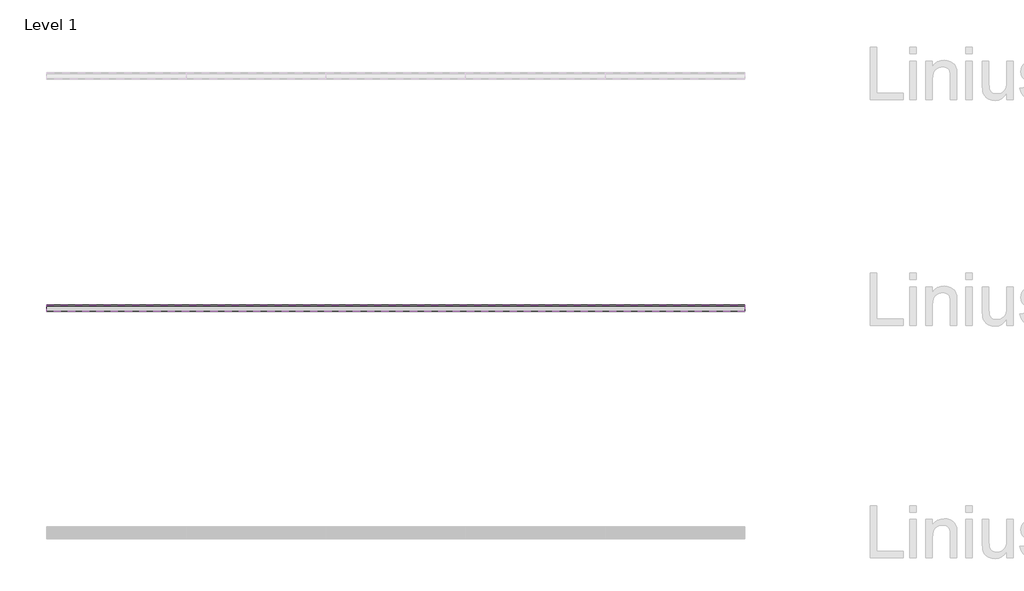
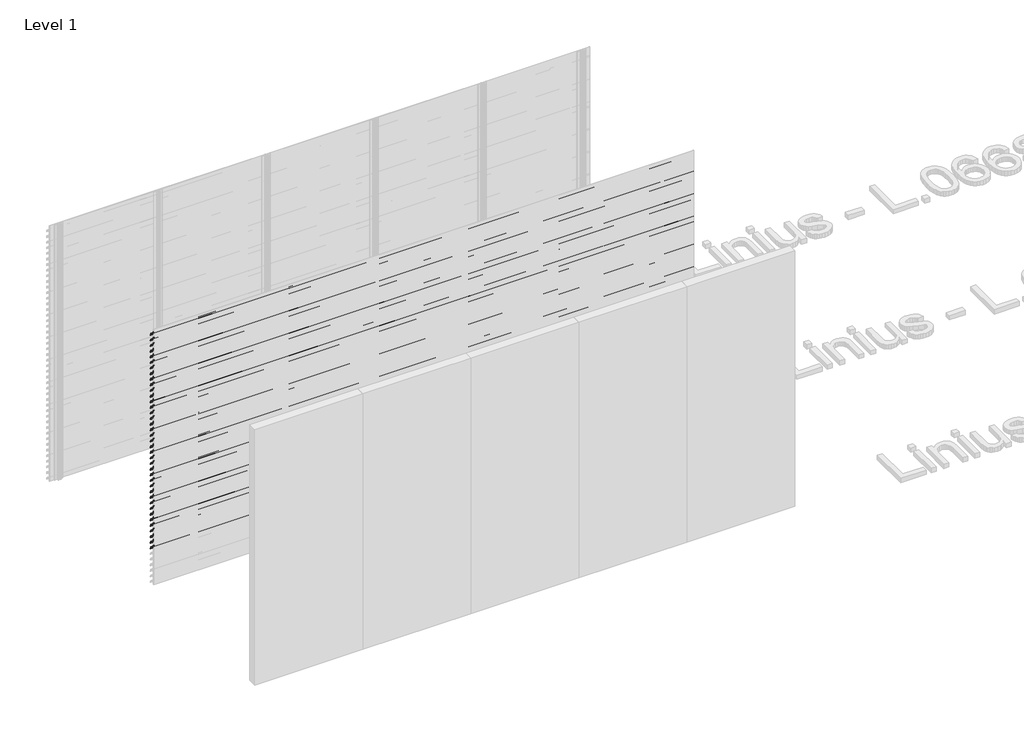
# One storey, part 120 of 540: 43 proxies.
"""IFC4 building model written with IfcOpenShell, lengths in millimetres."""

from ifc_helpers import new_model, si_unit, point, frame, frame_2d, origin, place, context, project, spatial, polyline, circle_curve, trimmed, segment, composite_curve, outline, extrude, element, save

model = new_model("IFC4")

# Units and contexts
model_context = context("Model", 3, world=origin())
ifc_project = project(units=[si_unit("LENGTHUNIT", "METRE", prefix="MILLI")], contexts=[model_context])

# Site, building, storey
site = spatial("IfcSite", under=ifc_project)
building = spatial("IfcBuilding", under=site)
storey = spatial("IfcBuildingStorey", under=building, Name="Level 1", Elevation=0.0)

# Proxies
placement = place(None, origin())
element("IfcBuildingElementProxy", 1, Name="Wall Sweeps", at=placement, inside=storey, context=model_context, shape_type="SweptSolid", body=[
    extrude(outline(composite_curve([segment(trimmed(circle_curve(frame_2d((7017.5825412, 193.7676769)), 26.4944656), [point((7034.5447587, 214.1205608))], [point((7044.0270068, 195.3946208))], False, "CARTESIAN"), True, "CONTINUOUS"), segment(polyline([(7044.0270068, 195.3946208), (7044.0270068, 187.5), (7042.7770068, 188.2216933), (7042.7770068, 193.7676769)]), True, "CONTINUOUS"), segment(trimmed(circle_curve(frame_2d((7017.5825412, 193.7676769)), 25.1944656), [point((7042.7770068, 193.7676769))], [point((7033.7545017, 213.086807))], True, "CARTESIAN"), True, "CONTINUOUS"), segment(polyline([(7033.7545017, 213.086807), (6989.0270068, 244.3158044), (6989.0270068, 264.0), (6990.2770068, 264.0), (6990.2770068, 245.0285629), (7034.5447587, 214.1205608)]), True, "CONTINUOUS")], self_intersect=False)), frame((90666.6208099, 0.0, 0.0), z_axis=(1.0, 0.0, 0.0), x_axis=(0.0, 1.0, 0.0)), (0.0, 0.0, 1.0), 1199.9999999),
])
element("IfcBuildingElementProxy", 2, Name="Wall Sweeps", at=placement, inside=storey, context=model_context, shape_type="SweptSolid", body=[
    extrude(outline(composite_curve([segment(trimmed(circle_curve(frame_2d((7017.5825412, 127.7676769)), 26.4944656), [point((7034.5447587, 148.1205608))], [point((7044.0270068, 129.3946208))], False, "CARTESIAN"), True, "CONTINUOUS"), segment(polyline([(7044.0270068, 129.3946208), (7044.0270068, 121.5), (7042.7770068, 122.2216933), (7042.7770068, 127.7676769)]), True, "CONTINUOUS"), segment(trimmed(circle_curve(frame_2d((7017.5825412, 127.7676769)), 25.1944656), [point((7042.7770068, 127.7676769))], [point((7033.7545017, 147.086807))], True, "CARTESIAN"), True, "CONTINUOUS"), segment(polyline([(7033.7545017, 147.086807), (6989.0270068, 178.3158044), (6989.0270068, 198.0), (6990.2770068, 198.0), (6990.2770068, 179.0285629), (7034.5447587, 148.1205608)]), True, "CONTINUOUS")], self_intersect=False)), frame((90666.6208099, 0.0, 0.0), z_axis=(1.0, 0.0, 0.0), x_axis=(0.0, 1.0, 0.0)), (0.0, 0.0, 1.0), 1199.9999999),
])
element("IfcBuildingElementProxy", 3, Name="Wall Sweeps", at=placement, inside=storey, context=model_context, shape_type="SweptSolid", body=[
    extrude(outline(composite_curve([segment(trimmed(circle_curve(frame_2d((7017.5825412, 61.7676769)), 26.4944656), [point((7034.5447587, 82.1205608))], [point((7044.0270068, 63.3946208))], False, "CARTESIAN"), True, "CONTINUOUS"), segment(polyline([(7044.0270068, 63.3946208), (7044.0270068, 55.5), (7042.7770068, 56.2216933), (7042.7770068, 61.7676769)]), True, "CONTINUOUS"), segment(trimmed(circle_curve(frame_2d((7017.5825412, 61.7676769)), 25.1944656), [point((7042.7770068, 61.7676769))], [point((7033.7545017, 81.086807))], True, "CARTESIAN"), True, "CONTINUOUS"), segment(polyline([(7033.7545017, 81.086807), (6989.0270068, 112.3158044), (6989.0270068, 132.0), (6990.2770068, 132.0), (6990.2770068, 113.0285629), (7034.5447587, 82.1205608)]), True, "CONTINUOUS")], self_intersect=False)), frame((90666.6208099, 0.0, 0.0), z_axis=(1.0, 0.0, 0.0), x_axis=(0.0, 1.0, 0.0)), (0.0, 0.0, 1.0), 1199.9999999),
])
element("IfcBuildingElementProxy", 4, Name="Wall Sweeps", at=placement, inside=storey, context=model_context, shape_type="SweptSolid", body=[
    extrude(outline(composite_curve([segment(trimmed(circle_curve(frame_2d((7017.5825412, -4.2323231)), 26.4944656), [point((7034.5447587, 16.1205608))], [point((7044.0270068, -2.6053792))], False, "CARTESIAN"), True, "CONTINUOUS"), segment(polyline([(7044.0270068, -2.6053792), (7044.0270068, -10.5), (7042.7770068, -9.7783067), (7042.7770068, -4.2323231)]), True, "CONTINUOUS"), segment(trimmed(circle_curve(frame_2d((7017.5825412, -4.2323231)), 25.1944656), [point((7042.7770068, -4.2323231))], [point((7033.7545017, 15.086807))], True, "CARTESIAN"), True, "CONTINUOUS"), segment(polyline([(7033.7545017, 15.086807), (6989.0270068, 46.3158044), (6989.0270068, 66.0), (6990.2770068, 66.0), (6990.2770068, 47.0285629), (7034.5447587, 16.1205608)]), True, "CONTINUOUS")], self_intersect=False)), frame((90666.6208099, 0.0, 0.0), z_axis=(1.0, 0.0, 0.0), x_axis=(0.0, 1.0, 0.0)), (0.0, 0.0, 1.0), 1199.9999999),
])
element("IfcBuildingElementProxy", 5, Name="Wall Sweeps", at=placement, inside=storey, context=model_context, shape_type="SweptSolid", body=[
    extrude(outline(composite_curve([segment(trimmed(circle_curve(frame_2d((5017.5825412, 2899.7676769)), 26.4944656), [point((5034.5447587, 2920.1205608))], [point((5044.0270068, 2901.3946208))], False, "CARTESIAN"), True, "CONTINUOUS"), segment(polyline([(5044.0270068, 2901.3946208), (5044.0270068, 2893.5), (5042.7770068, 2894.2216933), (5042.7770068, 2899.7676769)]), True, "CONTINUOUS"), segment(trimmed(circle_curve(frame_2d((5017.5825412, 2899.7676769)), 25.1944656), [point((5042.7770068, 2899.7676769))], [point((5033.7545017, 2919.086807))], True, "CARTESIAN"), True, "CONTINUOUS"), segment(polyline([(5033.7545017, 2919.086807), (4989.0270068, 2950.3158044), (4989.0270068, 2970.0), (4990.2770068, 2970.0), (4990.2770068, 2951.0285629), (5034.5447587, 2920.1205608)]), True, "CONTINUOUS")], self_intersect=False)), frame((89466.6208097, 0.0, 0.0), z_axis=(1.0, 0.0, 0.0), x_axis=(0.0, 1.0, 0.0)), (0.0, 0.0, 1.0), 6000.0),
])
element("IfcBuildingElementProxy", 6, Name="Wall Sweeps", at=placement, inside=storey, context=model_context, shape_type="SweptSolid", body=[
    extrude(outline(composite_curve([segment(trimmed(circle_curve(frame_2d((5017.5825412, 2833.7676769)), 26.4944656), [point((5034.5447587, 2854.1205608))], [point((5044.0270068, 2835.3946208))], False, "CARTESIAN"), True, "CONTINUOUS"), segment(polyline([(5044.0270068, 2835.3946208), (5044.0270068, 2827.5), (5042.7770068, 2828.2216933), (5042.7770068, 2833.7676769)]), True, "CONTINUOUS"), segment(trimmed(circle_curve(frame_2d((5017.5825412, 2833.7676769)), 25.1944656), [point((5042.7770068, 2833.7676769))], [point((5033.7545017, 2853.086807))], True, "CARTESIAN"), True, "CONTINUOUS"), segment(polyline([(5033.7545017, 2853.086807), (4989.0270068, 2884.3158044), (4989.0270068, 2904.0), (4990.2770068, 2904.0), (4990.2770068, 2885.0285629), (5034.5447587, 2854.1205608)]), True, "CONTINUOUS")], self_intersect=False)), frame((89466.6208097, 0.0, 0.0), z_axis=(1.0, 0.0, 0.0), x_axis=(0.0, 1.0, 0.0)), (0.0, 0.0, 1.0), 6000.0),
])
element("IfcBuildingElementProxy", 7, Name="Wall Sweeps", at=placement, inside=storey, context=model_context, shape_type="SweptSolid", body=[
    extrude(outline(composite_curve([segment(trimmed(circle_curve(frame_2d((5017.5825412, 2767.7676769)), 26.4944656), [point((5034.5447587, 2788.1205608))], [point((5044.0270068, 2769.3946208))], False, "CARTESIAN"), True, "CONTINUOUS"), segment(polyline([(5044.0270068, 2769.3946208), (5044.0270068, 2761.5), (5042.7770068, 2762.2216933), (5042.7770068, 2767.7676769)]), True, "CONTINUOUS"), segment(trimmed(circle_curve(frame_2d((5017.5825412, 2767.7676769)), 25.1944656), [point((5042.7770068, 2767.7676769))], [point((5033.7545017, 2787.086807))], True, "CARTESIAN"), True, "CONTINUOUS"), segment(polyline([(5033.7545017, 2787.086807), (4989.0270068, 2818.3158044), (4989.0270068, 2838.0), (4990.2770068, 2838.0), (4990.2770068, 2819.0285629), (5034.5447587, 2788.1205608)]), True, "CONTINUOUS")], self_intersect=False)), frame((89466.6208097, 0.0, 0.0), z_axis=(1.0, 0.0, 0.0), x_axis=(0.0, 1.0, 0.0)), (0.0, 0.0, 1.0), 6000.0),
])
element("IfcBuildingElementProxy", 8, Name="Wall Sweeps", at=placement, inside=storey, context=model_context, shape_type="SweptSolid", body=[
    extrude(outline(composite_curve([segment(trimmed(circle_curve(frame_2d((5017.5825412, 2701.7676769)), 26.4944656), [point((5034.5447587, 2722.1205608))], [point((5044.0270068, 2703.3946208))], False, "CARTESIAN"), True, "CONTINUOUS"), segment(polyline([(5044.0270068, 2703.3946208), (5044.0270068, 2695.5), (5042.7770068, 2696.2216933), (5042.7770068, 2701.7676769)]), True, "CONTINUOUS"), segment(trimmed(circle_curve(frame_2d((5017.5825412, 2701.7676769)), 25.1944656), [point((5042.7770068, 2701.7676769))], [point((5033.7545017, 2721.086807))], True, "CARTESIAN"), True, "CONTINUOUS"), segment(polyline([(5033.7545017, 2721.086807), (4989.0270068, 2752.3158044), (4989.0270068, 2772.0), (4990.2770068, 2772.0), (4990.2770068, 2753.0285629), (5034.5447587, 2722.1205608)]), True, "CONTINUOUS")], self_intersect=False)), frame((89466.6208097, 0.0, 0.0), z_axis=(1.0, 0.0, 0.0), x_axis=(0.0, 1.0, 0.0)), (0.0, 0.0, 1.0), 6000.0),
])
element("IfcBuildingElementProxy", 9, Name="Wall Sweeps", at=placement, inside=storey, context=model_context, shape_type="SweptSolid", body=[
    extrude(outline(composite_curve([segment(trimmed(circle_curve(frame_2d((5017.5825412, 2635.7676769)), 26.4944656), [point((5034.5447587, 2656.1205608))], [point((5044.0270068, 2637.3946208))], False, "CARTESIAN"), True, "CONTINUOUS"), segment(polyline([(5044.0270068, 2637.3946208), (5044.0270068, 2629.5), (5042.7770068, 2630.2216933), (5042.7770068, 2635.7676769)]), True, "CONTINUOUS"), segment(trimmed(circle_curve(frame_2d((5017.5825412, 2635.7676769)), 25.1944656), [point((5042.7770068, 2635.7676769))], [point((5033.7545017, 2655.086807))], True, "CARTESIAN"), True, "CONTINUOUS"), segment(polyline([(5033.7545017, 2655.086807), (4989.0270068, 2686.3158044), (4989.0270068, 2706.0), (4990.2770068, 2706.0), (4990.2770068, 2687.0285629), (5034.5447587, 2656.1205608)]), True, "CONTINUOUS")], self_intersect=False)), frame((89466.6208097, 0.0, 0.0), z_axis=(1.0, 0.0, 0.0), x_axis=(0.0, 1.0, 0.0)), (0.0, 0.0, 1.0), 6000.0),
])
element("IfcBuildingElementProxy", 10, Name="Wall Sweeps", at=placement, inside=storey, context=model_context, shape_type="SweptSolid", body=[
    extrude(outline(composite_curve([segment(trimmed(circle_curve(frame_2d((5017.5825412, 2569.7676769)), 26.4944656), [point((5034.5447587, 2590.1205608))], [point((5044.0270068, 2571.3946208))], False, "CARTESIAN"), True, "CONTINUOUS"), segment(polyline([(5044.0270068, 2571.3946208), (5044.0270068, 2563.5), (5042.7770068, 2564.2216933), (5042.7770068, 2569.7676769)]), True, "CONTINUOUS"), segment(trimmed(circle_curve(frame_2d((5017.5825412, 2569.7676769)), 25.1944656), [point((5042.7770068, 2569.7676769))], [point((5033.7545017, 2589.086807))], True, "CARTESIAN"), True, "CONTINUOUS"), segment(polyline([(5033.7545017, 2589.086807), (4989.0270068, 2620.3158044), (4989.0270068, 2640.0), (4990.2770068, 2640.0), (4990.2770068, 2621.0285629), (5034.5447587, 2590.1205608)]), True, "CONTINUOUS")], self_intersect=False)), frame((89466.6208097, 0.0, 0.0), z_axis=(1.0, 0.0, 0.0), x_axis=(0.0, 1.0, 0.0)), (0.0, 0.0, 1.0), 6000.0),
])
element("IfcBuildingElementProxy", 11, Name="Wall Sweeps", at=placement, inside=storey, context=model_context, shape_type="SweptSolid", body=[
    extrude(outline(composite_curve([segment(trimmed(circle_curve(frame_2d((5017.5825412, 2503.7676769)), 26.4944656), [point((5034.5447587, 2524.1205608))], [point((5044.0270068, 2505.3946208))], False, "CARTESIAN"), True, "CONTINUOUS"), segment(polyline([(5044.0270068, 2505.3946208), (5044.0270068, 2497.5), (5042.7770068, 2498.2216933), (5042.7770068, 2503.7676769)]), True, "CONTINUOUS"), segment(trimmed(circle_curve(frame_2d((5017.5825412, 2503.7676769)), 25.1944656), [point((5042.7770068, 2503.7676769))], [point((5033.7545017, 2523.086807))], True, "CARTESIAN"), True, "CONTINUOUS"), segment(polyline([(5033.7545017, 2523.086807), (4989.0270068, 2554.3158044), (4989.0270068, 2574.0), (4990.2770068, 2574.0), (4990.2770068, 2555.0285629), (5034.5447587, 2524.1205608)]), True, "CONTINUOUS")], self_intersect=False)), frame((89466.6208097, 0.0, 0.0), z_axis=(1.0, 0.0, 0.0), x_axis=(0.0, 1.0, 0.0)), (0.0, 0.0, 1.0), 6000.0),
])
element("IfcBuildingElementProxy", 12, Name="Wall Sweeps", at=placement, inside=storey, context=model_context, shape_type="SweptSolid", body=[
    extrude(outline(composite_curve([segment(trimmed(circle_curve(frame_2d((5017.5825412, 2437.7676769)), 26.4944656), [point((5034.5447587, 2458.1205608))], [point((5044.0270068, 2439.3946208))], False, "CARTESIAN"), True, "CONTINUOUS"), segment(polyline([(5044.0270068, 2439.3946208), (5044.0270068, 2431.5), (5042.7770068, 2432.2216933), (5042.7770068, 2437.7676769)]), True, "CONTINUOUS"), segment(trimmed(circle_curve(frame_2d((5017.5825412, 2437.7676769)), 25.1944656), [point((5042.7770068, 2437.7676769))], [point((5033.7545017, 2457.086807))], True, "CARTESIAN"), True, "CONTINUOUS"), segment(polyline([(5033.7545017, 2457.086807), (4989.0270068, 2488.3158044), (4989.0270068, 2508.0), (4990.2770068, 2508.0), (4990.2770068, 2489.0285629), (5034.5447587, 2458.1205608)]), True, "CONTINUOUS")], self_intersect=False)), frame((89466.6208097, 0.0, 0.0), z_axis=(1.0, 0.0, 0.0), x_axis=(0.0, 1.0, 0.0)), (0.0, 0.0, 1.0), 6000.0),
])
element("IfcBuildingElementProxy", 13, Name="Wall Sweeps", at=placement, inside=storey, context=model_context, shape_type="SweptSolid", body=[
    extrude(outline(composite_curve([segment(trimmed(circle_curve(frame_2d((5017.5825412, 2371.7676769)), 26.4944656), [point((5034.5447587, 2392.1205608))], [point((5044.0270068, 2373.3946208))], False, "CARTESIAN"), True, "CONTINUOUS"), segment(polyline([(5044.0270068, 2373.3946208), (5044.0270068, 2365.5), (5042.7770068, 2366.2216933), (5042.7770068, 2371.7676769)]), True, "CONTINUOUS"), segment(trimmed(circle_curve(frame_2d((5017.5825412, 2371.7676769)), 25.1944656), [point((5042.7770068, 2371.7676769))], [point((5033.7545017, 2391.086807))], True, "CARTESIAN"), True, "CONTINUOUS"), segment(polyline([(5033.7545017, 2391.086807), (4989.0270068, 2422.3158044), (4989.0270068, 2442.0), (4990.2770068, 2442.0), (4990.2770068, 2423.0285629), (5034.5447587, 2392.1205608)]), True, "CONTINUOUS")], self_intersect=False)), frame((89466.6208097, 0.0, 0.0), z_axis=(1.0, 0.0, 0.0), x_axis=(0.0, 1.0, 0.0)), (0.0, 0.0, 1.0), 6000.0),
])
element("IfcBuildingElementProxy", 14, Name="Wall Sweeps", at=placement, inside=storey, context=model_context, shape_type="SweptSolid", body=[
    extrude(outline(composite_curve([segment(trimmed(circle_curve(frame_2d((5017.5825412, 2305.7676769)), 26.4944656), [point((5034.5447587, 2326.1205608))], [point((5044.0270068, 2307.3946208))], False, "CARTESIAN"), True, "CONTINUOUS"), segment(polyline([(5044.0270068, 2307.3946208), (5044.0270068, 2299.5), (5042.7770068, 2300.2216933), (5042.7770068, 2305.7676769)]), True, "CONTINUOUS"), segment(trimmed(circle_curve(frame_2d((5017.5825412, 2305.7676769)), 25.1944656), [point((5042.7770068, 2305.7676769))], [point((5033.7545017, 2325.086807))], True, "CARTESIAN"), True, "CONTINUOUS"), segment(polyline([(5033.7545017, 2325.086807), (4989.0270068, 2356.3158044), (4989.0270068, 2376.0), (4990.2770068, 2376.0), (4990.2770068, 2357.0285629), (5034.5447587, 2326.1205608)]), True, "CONTINUOUS")], self_intersect=False)), frame((89466.6208097, 0.0, 0.0), z_axis=(1.0, 0.0, 0.0), x_axis=(0.0, 1.0, 0.0)), (0.0, 0.0, 1.0), 6000.0),
])
element("IfcBuildingElementProxy", 15, Name="Wall Sweeps", at=placement, inside=storey, context=model_context, shape_type="SweptSolid", body=[
    extrude(outline(composite_curve([segment(trimmed(circle_curve(frame_2d((5017.5825412, 2239.7676769)), 26.4944656), [point((5034.5447587, 2260.1205608))], [point((5044.0270068, 2241.3946208))], False, "CARTESIAN"), True, "CONTINUOUS"), segment(polyline([(5044.0270068, 2241.3946208), (5044.0270068, 2233.5), (5042.7770068, 2234.2216933), (5042.7770068, 2239.7676769)]), True, "CONTINUOUS"), segment(trimmed(circle_curve(frame_2d((5017.5825412, 2239.7676769)), 25.1944656), [point((5042.7770068, 2239.7676769))], [point((5033.7545017, 2259.086807))], True, "CARTESIAN"), True, "CONTINUOUS"), segment(polyline([(5033.7545017, 2259.086807), (4989.0270068, 2290.3158044), (4989.0270068, 2310.0), (4990.2770068, 2310.0), (4990.2770068, 2291.0285629), (5034.5447587, 2260.1205608)]), True, "CONTINUOUS")], self_intersect=False)), frame((89466.6208097, 0.0, 0.0), z_axis=(1.0, 0.0, 0.0), x_axis=(0.0, 1.0, 0.0)), (0.0, 0.0, 1.0), 6000.0),
])
element("IfcBuildingElementProxy", 16, Name="Wall Sweeps", at=placement, inside=storey, context=model_context, shape_type="SweptSolid", body=[
    extrude(outline(composite_curve([segment(trimmed(circle_curve(frame_2d((5017.5825412, 2173.7676769)), 26.4944656), [point((5034.5447587, 2194.1205608))], [point((5044.0270068, 2175.3946208))], False, "CARTESIAN"), True, "CONTINUOUS"), segment(polyline([(5044.0270068, 2175.3946208), (5044.0270068, 2167.5), (5042.7770068, 2168.2216933), (5042.7770068, 2173.7676769)]), True, "CONTINUOUS"), segment(trimmed(circle_curve(frame_2d((5017.5825412, 2173.7676769)), 25.1944656), [point((5042.7770068, 2173.7676769))], [point((5033.7545017, 2193.086807))], True, "CARTESIAN"), True, "CONTINUOUS"), segment(polyline([(5033.7545017, 2193.086807), (4989.0270068, 2224.3158044), (4989.0270068, 2244.0), (4990.2770068, 2244.0), (4990.2770068, 2225.0285629), (5034.5447587, 2194.1205608)]), True, "CONTINUOUS")], self_intersect=False)), frame((89466.6208097, 0.0, 0.0), z_axis=(1.0, 0.0, 0.0), x_axis=(0.0, 1.0, 0.0)), (0.0, 0.0, 1.0), 6000.0),
])
element("IfcBuildingElementProxy", 17, Name="Wall Sweeps", at=placement, inside=storey, context=model_context, shape_type="SweptSolid", body=[
    extrude(outline(composite_curve([segment(trimmed(circle_curve(frame_2d((5017.5825412, 2107.7676769)), 26.4944656), [point((5034.5447587, 2128.1205608))], [point((5044.0270068, 2109.3946208))], False, "CARTESIAN"), True, "CONTINUOUS"), segment(polyline([(5044.0270068, 2109.3946208), (5044.0270068, 2101.5), (5042.7770068, 2102.2216933), (5042.7770068, 2107.7676769)]), True, "CONTINUOUS"), segment(trimmed(circle_curve(frame_2d((5017.5825412, 2107.7676769)), 25.1944656), [point((5042.7770068, 2107.7676769))], [point((5033.7545017, 2127.086807))], True, "CARTESIAN"), True, "CONTINUOUS"), segment(polyline([(5033.7545017, 2127.086807), (4989.0270068, 2158.3158044), (4989.0270068, 2178.0), (4990.2770068, 2178.0), (4990.2770068, 2159.0285629), (5034.5447587, 2128.1205608)]), True, "CONTINUOUS")], self_intersect=False)), frame((89466.6208097, 0.0, 0.0), z_axis=(1.0, 0.0, 0.0), x_axis=(0.0, 1.0, 0.0)), (0.0, 0.0, 1.0), 6000.0),
])
element("IfcBuildingElementProxy", 18, Name="Wall Sweeps", at=placement, inside=storey, context=model_context, shape_type="SweptSolid", body=[
    extrude(outline(composite_curve([segment(trimmed(circle_curve(frame_2d((5017.5825412, 2041.7676769)), 26.4944656), [point((5034.5447587, 2062.1205608))], [point((5044.0270068, 2043.3946208))], False, "CARTESIAN"), True, "CONTINUOUS"), segment(polyline([(5044.0270068, 2043.3946208), (5044.0270068, 2035.5), (5042.7770068, 2036.2216933), (5042.7770068, 2041.7676769)]), True, "CONTINUOUS"), segment(trimmed(circle_curve(frame_2d((5017.5825412, 2041.7676769)), 25.1944656), [point((5042.7770068, 2041.7676769))], [point((5033.7545017, 2061.086807))], True, "CARTESIAN"), True, "CONTINUOUS"), segment(polyline([(5033.7545017, 2061.086807), (4989.0270068, 2092.3158044), (4989.0270068, 2112.0), (4990.2770068, 2112.0), (4990.2770068, 2093.0285629), (5034.5447587, 2062.1205608)]), True, "CONTINUOUS")], self_intersect=False)), frame((89466.6208097, 0.0, 0.0), z_axis=(1.0, 0.0, 0.0), x_axis=(0.0, 1.0, 0.0)), (0.0, 0.0, 1.0), 6000.0),
])
element("IfcBuildingElementProxy", 19, Name="Wall Sweeps", at=placement, inside=storey, context=model_context, shape_type="SweptSolid", body=[
    extrude(outline(composite_curve([segment(trimmed(circle_curve(frame_2d((5017.5825412, 1975.7676769)), 26.4944656), [point((5034.5447587, 1996.1205608))], [point((5044.0270068, 1977.3946208))], False, "CARTESIAN"), True, "CONTINUOUS"), segment(polyline([(5044.0270068, 1977.3946208), (5044.0270068, 1969.5), (5042.7770068, 1970.2216933), (5042.7770068, 1975.7676769)]), True, "CONTINUOUS"), segment(trimmed(circle_curve(frame_2d((5017.5825412, 1975.7676769)), 25.1944656), [point((5042.7770068, 1975.7676769))], [point((5033.7545017, 1995.086807))], True, "CARTESIAN"), True, "CONTINUOUS"), segment(polyline([(5033.7545017, 1995.086807), (4989.0270068, 2026.3158044), (4989.0270068, 2046.0), (4990.2770068, 2046.0), (4990.2770068, 2027.0285629), (5034.5447587, 1996.1205608)]), True, "CONTINUOUS")], self_intersect=False)), frame((89466.6208097, 0.0, 0.0), z_axis=(1.0, 0.0, 0.0), x_axis=(0.0, 1.0, 0.0)), (0.0, 0.0, 1.0), 6000.0),
])
element("IfcBuildingElementProxy", 20, Name="Wall Sweeps", at=placement, inside=storey, context=model_context, shape_type="SweptSolid", body=[
    extrude(outline(composite_curve([segment(trimmed(circle_curve(frame_2d((5017.5825412, 1909.7676769)), 26.4944656), [point((5034.5447587, 1930.1205608))], [point((5044.0270068, 1911.3946208))], False, "CARTESIAN"), True, "CONTINUOUS"), segment(polyline([(5044.0270068, 1911.3946208), (5044.0270068, 1903.5), (5042.7770068, 1904.2216933), (5042.7770068, 1909.7676769)]), True, "CONTINUOUS"), segment(trimmed(circle_curve(frame_2d((5017.5825412, 1909.7676769)), 25.1944656), [point((5042.7770068, 1909.7676769))], [point((5033.7545017, 1929.086807))], True, "CARTESIAN"), True, "CONTINUOUS"), segment(polyline([(5033.7545017, 1929.086807), (4989.0270068, 1960.3158044), (4989.0270068, 1980.0), (4990.2770068, 1980.0), (4990.2770068, 1961.0285629), (5034.5447587, 1930.1205608)]), True, "CONTINUOUS")], self_intersect=False)), frame((89466.6208097, 0.0, 0.0), z_axis=(1.0, 0.0, 0.0), x_axis=(0.0, 1.0, 0.0)), (0.0, 0.0, 1.0), 6000.0),
])
element("IfcBuildingElementProxy", 21, Name="Wall Sweeps", at=placement, inside=storey, context=model_context, shape_type="SweptSolid", body=[
    extrude(outline(composite_curve([segment(trimmed(circle_curve(frame_2d((5017.5825412, 1843.7676769)), 26.4944656), [point((5034.5447587, 1864.1205608))], [point((5044.0270068, 1845.3946208))], False, "CARTESIAN"), True, "CONTINUOUS"), segment(polyline([(5044.0270068, 1845.3946208), (5044.0270068, 1837.5), (5042.7770068, 1838.2216933), (5042.7770068, 1843.7676769)]), True, "CONTINUOUS"), segment(trimmed(circle_curve(frame_2d((5017.5825412, 1843.7676769)), 25.1944656), [point((5042.7770068, 1843.7676769))], [point((5033.7545017, 1863.086807))], True, "CARTESIAN"), True, "CONTINUOUS"), segment(polyline([(5033.7545017, 1863.086807), (4989.0270068, 1894.3158044), (4989.0270068, 1914.0), (4990.2770068, 1914.0), (4990.2770068, 1895.0285629), (5034.5447587, 1864.1205608)]), True, "CONTINUOUS")], self_intersect=False)), frame((89466.6208097, 0.0, 0.0), z_axis=(1.0, 0.0, 0.0), x_axis=(0.0, 1.0, 0.0)), (0.0, 0.0, 1.0), 6000.0),
])
element("IfcBuildingElementProxy", 22, Name="Wall Sweeps", at=placement, inside=storey, context=model_context, shape_type="SweptSolid", body=[
    extrude(outline(composite_curve([segment(trimmed(circle_curve(frame_2d((5017.5825412, 1777.7676769)), 26.4944656), [point((5034.5447587, 1798.1205608))], [point((5044.0270068, 1779.3946208))], False, "CARTESIAN"), True, "CONTINUOUS"), segment(polyline([(5044.0270068, 1779.3946208), (5044.0270068, 1771.5), (5042.7770068, 1772.2216933), (5042.7770068, 1777.7676769)]), True, "CONTINUOUS"), segment(trimmed(circle_curve(frame_2d((5017.5825412, 1777.7676769)), 25.1944656), [point((5042.7770068, 1777.7676769))], [point((5033.7545017, 1797.086807))], True, "CARTESIAN"), True, "CONTINUOUS"), segment(polyline([(5033.7545017, 1797.086807), (4989.0270068, 1828.3158044), (4989.0270068, 1848.0), (4990.2770068, 1848.0), (4990.2770068, 1829.0285629), (5034.5447587, 1798.1205608)]), True, "CONTINUOUS")], self_intersect=False)), frame((89466.6208097, 0.0, 0.0), z_axis=(1.0, 0.0, 0.0), x_axis=(0.0, 1.0, 0.0)), (0.0, 0.0, 1.0), 6000.0),
])
element("IfcBuildingElementProxy", 23, Name="Wall Sweeps", at=placement, inside=storey, context=model_context, shape_type="SweptSolid", body=[
    extrude(outline(composite_curve([segment(trimmed(circle_curve(frame_2d((5017.5825412, 1711.7676769)), 26.4944656), [point((5034.5447587, 1732.1205608))], [point((5044.0270068, 1713.3946208))], False, "CARTESIAN"), True, "CONTINUOUS"), segment(polyline([(5044.0270068, 1713.3946208), (5044.0270068, 1705.5), (5042.7770068, 1706.2216933), (5042.7770068, 1711.7676769)]), True, "CONTINUOUS"), segment(trimmed(circle_curve(frame_2d((5017.5825412, 1711.7676769)), 25.1944656), [point((5042.7770068, 1711.7676769))], [point((5033.7545017, 1731.086807))], True, "CARTESIAN"), True, "CONTINUOUS"), segment(polyline([(5033.7545017, 1731.086807), (4989.0270068, 1762.3158044), (4989.0270068, 1782.0), (4990.2770068, 1782.0), (4990.2770068, 1763.0285629), (5034.5447587, 1732.1205608)]), True, "CONTINUOUS")], self_intersect=False)), frame((89466.6208097, 0.0, 0.0), z_axis=(1.0, 0.0, 0.0), x_axis=(0.0, 1.0, 0.0)), (0.0, 0.0, 1.0), 6000.0),
])
element("IfcBuildingElementProxy", 24, Name="Wall Sweeps", at=placement, inside=storey, context=model_context, shape_type="SweptSolid", body=[
    extrude(outline(composite_curve([segment(trimmed(circle_curve(frame_2d((5017.5825412, 1645.7676769)), 26.4944656), [point((5034.5447587, 1666.1205608))], [point((5044.0270068, 1647.3946208))], False, "CARTESIAN"), True, "CONTINUOUS"), segment(polyline([(5044.0270068, 1647.3946208), (5044.0270068, 1639.5), (5042.7770068, 1640.2216933), (5042.7770068, 1645.7676769)]), True, "CONTINUOUS"), segment(trimmed(circle_curve(frame_2d((5017.5825412, 1645.7676769)), 25.1944656), [point((5042.7770068, 1645.7676769))], [point((5033.7545017, 1665.086807))], True, "CARTESIAN"), True, "CONTINUOUS"), segment(polyline([(5033.7545017, 1665.086807), (4989.0270068, 1696.3158044), (4989.0270068, 1716.0), (4990.2770068, 1716.0), (4990.2770068, 1697.0285629), (5034.5447587, 1666.1205608)]), True, "CONTINUOUS")], self_intersect=False)), frame((89466.6208097, 0.0, 0.0), z_axis=(1.0, 0.0, 0.0), x_axis=(0.0, 1.0, 0.0)), (0.0, 0.0, 1.0), 6000.0),
])
element("IfcBuildingElementProxy", 25, Name="Wall Sweeps", at=placement, inside=storey, context=model_context, shape_type="SweptSolid", body=[
    extrude(outline(composite_curve([segment(trimmed(circle_curve(frame_2d((5017.5825412, 1579.7676769)), 26.4944656), [point((5034.5447587, 1600.1205608))], [point((5044.0270068, 1581.3946208))], False, "CARTESIAN"), True, "CONTINUOUS"), segment(polyline([(5044.0270068, 1581.3946208), (5044.0270068, 1573.5), (5042.7770068, 1574.2216933), (5042.7770068, 1579.7676769)]), True, "CONTINUOUS"), segment(trimmed(circle_curve(frame_2d((5017.5825412, 1579.7676769)), 25.1944656), [point((5042.7770068, 1579.7676769))], [point((5033.7545017, 1599.086807))], True, "CARTESIAN"), True, "CONTINUOUS"), segment(polyline([(5033.7545017, 1599.086807), (4989.0270068, 1630.3158044), (4989.0270068, 1650.0), (4990.2770068, 1650.0), (4990.2770068, 1631.0285629), (5034.5447587, 1600.1205608)]), True, "CONTINUOUS")], self_intersect=False)), frame((89466.6208097, 0.0, 0.0), z_axis=(1.0, 0.0, 0.0), x_axis=(0.0, 1.0, 0.0)), (0.0, 0.0, 1.0), 6000.0),
])
element("IfcBuildingElementProxy", 26, Name="Wall Sweeps", at=placement, inside=storey, context=model_context, shape_type="SweptSolid", body=[
    extrude(outline(composite_curve([segment(trimmed(circle_curve(frame_2d((5017.5825412, 1513.7676769)), 26.4944656), [point((5034.5447587, 1534.1205608))], [point((5044.0270068, 1515.3946208))], False, "CARTESIAN"), True, "CONTINUOUS"), segment(polyline([(5044.0270068, 1515.3946208), (5044.0270068, 1507.5), (5042.7770068, 1508.2216933), (5042.7770068, 1513.7676769)]), True, "CONTINUOUS"), segment(trimmed(circle_curve(frame_2d((5017.5825412, 1513.7676769)), 25.1944656), [point((5042.7770068, 1513.7676769))], [point((5033.7545017, 1533.086807))], True, "CARTESIAN"), True, "CONTINUOUS"), segment(polyline([(5033.7545017, 1533.086807), (4989.0270068, 1564.3158044), (4989.0270068, 1584.0), (4990.2770068, 1584.0), (4990.2770068, 1565.0285629), (5034.5447587, 1534.1205608)]), True, "CONTINUOUS")], self_intersect=False)), frame((89466.6208097, 0.0, 0.0), z_axis=(1.0, 0.0, 0.0), x_axis=(0.0, 1.0, 0.0)), (0.0, 0.0, 1.0), 6000.0),
])
element("IfcBuildingElementProxy", 27, Name="Wall Sweeps", at=placement, inside=storey, context=model_context, shape_type="SweptSolid", body=[
    extrude(outline(composite_curve([segment(trimmed(circle_curve(frame_2d((5017.5825412, 1447.7676769)), 26.4944656), [point((5034.5447587, 1468.1205608))], [point((5044.0270068, 1449.3946208))], False, "CARTESIAN"), True, "CONTINUOUS"), segment(polyline([(5044.0270068, 1449.3946208), (5044.0270068, 1441.5), (5042.7770068, 1442.2216933), (5042.7770068, 1447.7676769)]), True, "CONTINUOUS"), segment(trimmed(circle_curve(frame_2d((5017.5825412, 1447.7676769)), 25.1944656), [point((5042.7770068, 1447.7676769))], [point((5033.7545017, 1467.086807))], True, "CARTESIAN"), True, "CONTINUOUS"), segment(polyline([(5033.7545017, 1467.086807), (4989.0270068, 1498.3158044), (4989.0270068, 1518.0), (4990.2770068, 1518.0), (4990.2770068, 1499.0285629), (5034.5447587, 1468.1205608)]), True, "CONTINUOUS")], self_intersect=False)), frame((89466.6208097, 0.0, 0.0), z_axis=(1.0, 0.0, 0.0), x_axis=(0.0, 1.0, 0.0)), (0.0, 0.0, 1.0), 6000.0),
])
element("IfcBuildingElementProxy", 28, Name="Wall Sweeps", at=placement, inside=storey, context=model_context, shape_type="SweptSolid", body=[
    extrude(outline(composite_curve([segment(trimmed(circle_curve(frame_2d((5017.5825412, 1381.7676769)), 26.4944656), [point((5034.5447587, 1402.1205608))], [point((5044.0270068, 1383.3946208))], False, "CARTESIAN"), True, "CONTINUOUS"), segment(polyline([(5044.0270068, 1383.3946208), (5044.0270068, 1375.5), (5042.7770068, 1376.2216933), (5042.7770068, 1381.7676769)]), True, "CONTINUOUS"), segment(trimmed(circle_curve(frame_2d((5017.5825412, 1381.7676769)), 25.1944656), [point((5042.7770068, 1381.7676769))], [point((5033.7545017, 1401.086807))], True, "CARTESIAN"), True, "CONTINUOUS"), segment(polyline([(5033.7545017, 1401.086807), (4989.0270068, 1432.3158044), (4989.0270068, 1452.0), (4990.2770068, 1452.0), (4990.2770068, 1433.0285629), (5034.5447587, 1402.1205608)]), True, "CONTINUOUS")], self_intersect=False)), frame((89466.6208097, 0.0, 0.0), z_axis=(1.0, 0.0, 0.0), x_axis=(0.0, 1.0, 0.0)), (0.0, 0.0, 1.0), 6000.0),
])
element("IfcBuildingElementProxy", 29, Name="Wall Sweeps", at=placement, inside=storey, context=model_context, shape_type="SweptSolid", body=[
    extrude(outline(composite_curve([segment(trimmed(circle_curve(frame_2d((5017.5825412, 1315.7676769)), 26.4944656), [point((5034.5447587, 1336.1205608))], [point((5044.0270068, 1317.3946208))], False, "CARTESIAN"), True, "CONTINUOUS"), segment(polyline([(5044.0270068, 1317.3946208), (5044.0270068, 1309.5), (5042.7770068, 1310.2216933), (5042.7770068, 1315.7676769)]), True, "CONTINUOUS"), segment(trimmed(circle_curve(frame_2d((5017.5825412, 1315.7676769)), 25.1944656), [point((5042.7770068, 1315.7676769))], [point((5033.7545017, 1335.086807))], True, "CARTESIAN"), True, "CONTINUOUS"), segment(polyline([(5033.7545017, 1335.086807), (4989.0270068, 1366.3158044), (4989.0270068, 1386.0), (4990.2770068, 1386.0), (4990.2770068, 1367.0285629), (5034.5447587, 1336.1205608)]), True, "CONTINUOUS")], self_intersect=False)), frame((89466.6208097, 0.0, 0.0), z_axis=(1.0, 0.0, 0.0), x_axis=(0.0, 1.0, 0.0)), (0.0, 0.0, 1.0), 6000.0),
])
element("IfcBuildingElementProxy", 30, Name="Wall Sweeps", at=placement, inside=storey, context=model_context, shape_type="SweptSolid", body=[
    extrude(outline(composite_curve([segment(trimmed(circle_curve(frame_2d((5017.5825412, 1249.7676769)), 26.4944656), [point((5034.5447587, 1270.1205608))], [point((5044.0270068, 1251.3946208))], False, "CARTESIAN"), True, "CONTINUOUS"), segment(polyline([(5044.0270068, 1251.3946208), (5044.0270068, 1243.5), (5042.7770068, 1244.2216933), (5042.7770068, 1249.7676769)]), True, "CONTINUOUS"), segment(trimmed(circle_curve(frame_2d((5017.5825412, 1249.7676769)), 25.1944656), [point((5042.7770068, 1249.7676769))], [point((5033.7545017, 1269.086807))], True, "CARTESIAN"), True, "CONTINUOUS"), segment(polyline([(5033.7545017, 1269.086807), (4989.0270068, 1300.3158044), (4989.0270068, 1320.0), (4990.2770068, 1320.0), (4990.2770068, 1301.0285629), (5034.5447587, 1270.1205608)]), True, "CONTINUOUS")], self_intersect=False)), frame((89466.6208097, 0.0, 0.0), z_axis=(1.0, 0.0, 0.0), x_axis=(0.0, 1.0, 0.0)), (0.0, 0.0, 1.0), 6000.0),
])
element("IfcBuildingElementProxy", 31, Name="Wall Sweeps", at=placement, inside=storey, context=model_context, shape_type="SweptSolid", body=[
    extrude(outline(composite_curve([segment(trimmed(circle_curve(frame_2d((5017.5825412, 1183.7676769)), 26.4944656), [point((5034.5447587, 1204.1205608))], [point((5044.0270068, 1185.3946208))], False, "CARTESIAN"), True, "CONTINUOUS"), segment(polyline([(5044.0270068, 1185.3946208), (5044.0270068, 1177.5), (5042.7770068, 1178.2216933), (5042.7770068, 1183.7676769)]), True, "CONTINUOUS"), segment(trimmed(circle_curve(frame_2d((5017.5825412, 1183.7676769)), 25.1944656), [point((5042.7770068, 1183.7676769))], [point((5033.7545017, 1203.086807))], True, "CARTESIAN"), True, "CONTINUOUS"), segment(polyline([(5033.7545017, 1203.086807), (4989.0270068, 1234.3158044), (4989.0270068, 1254.0), (4990.2770068, 1254.0), (4990.2770068, 1235.0285629), (5034.5447587, 1204.1205608)]), True, "CONTINUOUS")], self_intersect=False)), frame((89466.6208097, 0.0, 0.0), z_axis=(1.0, 0.0, 0.0), x_axis=(0.0, 1.0, 0.0)), (0.0, 0.0, 1.0), 6000.0),
])
element("IfcBuildingElementProxy", 32, Name="Wall Sweeps", at=placement, inside=storey, context=model_context, shape_type="SweptSolid", body=[
    extrude(outline(composite_curve([segment(trimmed(circle_curve(frame_2d((5017.5825412, 1117.7676769)), 26.4944656), [point((5034.5447587, 1138.1205608))], [point((5044.0270068, 1119.3946208))], False, "CARTESIAN"), True, "CONTINUOUS"), segment(polyline([(5044.0270068, 1119.3946208), (5044.0270068, 1111.5), (5042.7770068, 1112.2216933), (5042.7770068, 1117.7676769)]), True, "CONTINUOUS"), segment(trimmed(circle_curve(frame_2d((5017.5825412, 1117.7676769)), 25.1944656), [point((5042.7770068, 1117.7676769))], [point((5033.7545017, 1137.086807))], True, "CARTESIAN"), True, "CONTINUOUS"), segment(polyline([(5033.7545017, 1137.086807), (4989.0270068, 1168.3158044), (4989.0270068, 1188.0), (4990.2770068, 1188.0), (4990.2770068, 1169.0285629), (5034.5447587, 1138.1205608)]), True, "CONTINUOUS")], self_intersect=False)), frame((89466.6208097, 0.0, 0.0), z_axis=(1.0, 0.0, 0.0), x_axis=(0.0, 1.0, 0.0)), (0.0, 0.0, 1.0), 6000.0),
])
element("IfcBuildingElementProxy", 33, Name="Wall Sweeps", at=placement, inside=storey, context=model_context, shape_type="SweptSolid", body=[
    extrude(outline(composite_curve([segment(trimmed(circle_curve(frame_2d((5017.5825412, 1051.7676769)), 26.4944656), [point((5034.5447587, 1072.1205608))], [point((5044.0270068, 1053.3946208))], False, "CARTESIAN"), True, "CONTINUOUS"), segment(polyline([(5044.0270068, 1053.3946208), (5044.0270068, 1045.5), (5042.7770068, 1046.2216933), (5042.7770068, 1051.7676769)]), True, "CONTINUOUS"), segment(trimmed(circle_curve(frame_2d((5017.5825412, 1051.7676769)), 25.1944656), [point((5042.7770068, 1051.7676769))], [point((5033.7545017, 1071.086807))], True, "CARTESIAN"), True, "CONTINUOUS"), segment(polyline([(5033.7545017, 1071.086807), (4989.0270068, 1102.3158044), (4989.0270068, 1122.0), (4990.2770068, 1122.0), (4990.2770068, 1103.0285629), (5034.5447587, 1072.1205608)]), True, "CONTINUOUS")], self_intersect=False)), frame((89466.6208097, 0.0, 0.0), z_axis=(1.0, 0.0, 0.0), x_axis=(0.0, 1.0, 0.0)), (0.0, 0.0, 1.0), 6000.0),
])
element("IfcBuildingElementProxy", 34, Name="Wall Sweeps", at=placement, inside=storey, context=model_context, shape_type="SweptSolid", body=[
    extrude(outline(composite_curve([segment(trimmed(circle_curve(frame_2d((5017.5825412, 985.7676769)), 26.4944656), [point((5034.5447587, 1006.1205608))], [point((5044.0270068, 987.3946208))], False, "CARTESIAN"), True, "CONTINUOUS"), segment(polyline([(5044.0270068, 987.3946208), (5044.0270068, 979.5), (5042.7770068, 980.2216933), (5042.7770068, 985.7676769)]), True, "CONTINUOUS"), segment(trimmed(circle_curve(frame_2d((5017.5825412, 985.7676769)), 25.1944656), [point((5042.7770068, 985.7676769))], [point((5033.7545017, 1005.086807))], True, "CARTESIAN"), True, "CONTINUOUS"), segment(polyline([(5033.7545017, 1005.086807), (4989.0270068, 1036.3158044), (4989.0270068, 1056.0), (4990.2770068, 1056.0), (4990.2770068, 1037.0285629), (5034.5447587, 1006.1205608)]), True, "CONTINUOUS")], self_intersect=False)), frame((89466.6208097, 0.0, 0.0), z_axis=(1.0, 0.0, 0.0), x_axis=(0.0, 1.0, 0.0)), (0.0, 0.0, 1.0), 6000.0),
])
element("IfcBuildingElementProxy", 35, Name="Wall Sweeps", at=placement, inside=storey, context=model_context, shape_type="SweptSolid", body=[
    extrude(outline(composite_curve([segment(trimmed(circle_curve(frame_2d((5017.5825412, 919.7676769)), 26.4944656), [point((5034.5447587, 940.1205608))], [point((5044.0270068, 921.3946208))], False, "CARTESIAN"), True, "CONTINUOUS"), segment(polyline([(5044.0270068, 921.3946208), (5044.0270068, 913.5), (5042.7770068, 914.2216933), (5042.7770068, 919.7676769)]), True, "CONTINUOUS"), segment(trimmed(circle_curve(frame_2d((5017.5825412, 919.7676769)), 25.1944656), [point((5042.7770068, 919.7676769))], [point((5033.7545017, 939.086807))], True, "CARTESIAN"), True, "CONTINUOUS"), segment(polyline([(5033.7545017, 939.086807), (4989.0270068, 970.3158044), (4989.0270068, 990.0), (4990.2770068, 990.0), (4990.2770068, 971.0285629), (5034.5447587, 940.1205608)]), True, "CONTINUOUS")], self_intersect=False)), frame((89466.6208097, 0.0, 0.0), z_axis=(1.0, 0.0, 0.0), x_axis=(0.0, 1.0, 0.0)), (0.0, 0.0, 1.0), 6000.0),
])
element("IfcBuildingElementProxy", 36, Name="Wall Sweeps", at=placement, inside=storey, context=model_context, shape_type="SweptSolid", body=[
    extrude(outline(composite_curve([segment(trimmed(circle_curve(frame_2d((5017.5825412, 853.7676769)), 26.4944656), [point((5034.5447587, 874.1205608))], [point((5044.0270068, 855.3946208))], False, "CARTESIAN"), True, "CONTINUOUS"), segment(polyline([(5044.0270068, 855.3946208), (5044.0270068, 847.5), (5042.7770068, 848.2216933), (5042.7770068, 853.7676769)]), True, "CONTINUOUS"), segment(trimmed(circle_curve(frame_2d((5017.5825412, 853.7676769)), 25.1944656), [point((5042.7770068, 853.7676769))], [point((5033.7545017, 873.086807))], True, "CARTESIAN"), True, "CONTINUOUS"), segment(polyline([(5033.7545017, 873.086807), (4989.0270068, 904.3158044), (4989.0270068, 924.0), (4990.2770068, 924.0), (4990.2770068, 905.0285629), (5034.5447587, 874.1205608)]), True, "CONTINUOUS")], self_intersect=False)), frame((89466.6208097, 0.0, 0.0), z_axis=(1.0, 0.0, 0.0), x_axis=(0.0, 1.0, 0.0)), (0.0, 0.0, 1.0), 6000.0),
])
element("IfcBuildingElementProxy", 37, Name="Wall Sweeps", at=placement, inside=storey, context=model_context, shape_type="SweptSolid", body=[
    extrude(outline(composite_curve([segment(trimmed(circle_curve(frame_2d((5017.5825412, 787.7676769)), 26.4944656), [point((5034.5447587, 808.1205608))], [point((5044.0270068, 789.3946208))], False, "CARTESIAN"), True, "CONTINUOUS"), segment(polyline([(5044.0270068, 789.3946208), (5044.0270068, 781.5), (5042.7770068, 782.2216933), (5042.7770068, 787.7676769)]), True, "CONTINUOUS"), segment(trimmed(circle_curve(frame_2d((5017.5825412, 787.7676769)), 25.1944656), [point((5042.7770068, 787.7676769))], [point((5033.7545017, 807.086807))], True, "CARTESIAN"), True, "CONTINUOUS"), segment(polyline([(5033.7545017, 807.086807), (4989.0270068, 838.3158044), (4989.0270068, 858.0), (4990.2770068, 858.0), (4990.2770068, 839.0285629), (5034.5447587, 808.1205608)]), True, "CONTINUOUS")], self_intersect=False)), frame((89466.6208097, 0.0, 0.0), z_axis=(1.0, 0.0, 0.0), x_axis=(0.0, 1.0, 0.0)), (0.0, 0.0, 1.0), 6000.0),
])
element("IfcBuildingElementProxy", 38, Name="Wall Sweeps", at=placement, inside=storey, context=model_context, shape_type="SweptSolid", body=[
    extrude(outline(composite_curve([segment(trimmed(circle_curve(frame_2d((5017.5825412, 721.7676769)), 26.4944656), [point((5034.5447587, 742.1205608))], [point((5044.0270068, 723.3946208))], False, "CARTESIAN"), True, "CONTINUOUS"), segment(polyline([(5044.0270068, 723.3946208), (5044.0270068, 715.5), (5042.7770068, 716.2216933), (5042.7770068, 721.7676769)]), True, "CONTINUOUS"), segment(trimmed(circle_curve(frame_2d((5017.5825412, 721.7676769)), 25.1944656), [point((5042.7770068, 721.7676769))], [point((5033.7545017, 741.086807))], True, "CARTESIAN"), True, "CONTINUOUS"), segment(polyline([(5033.7545017, 741.086807), (4989.0270068, 772.3158044), (4989.0270068, 792.0), (4990.2770068, 792.0), (4990.2770068, 773.0285629), (5034.5447587, 742.1205608)]), True, "CONTINUOUS")], self_intersect=False)), frame((89466.6208097, 0.0, 0.0), z_axis=(1.0, 0.0, 0.0), x_axis=(0.0, 1.0, 0.0)), (0.0, 0.0, 1.0), 6000.0),
])
element("IfcBuildingElementProxy", 39, Name="Wall Sweeps", at=placement, inside=storey, context=model_context, shape_type="SweptSolid", body=[
    extrude(outline(composite_curve([segment(trimmed(circle_curve(frame_2d((5017.5825412, 655.7676769)), 26.4944656), [point((5034.5447587, 676.1205608))], [point((5044.0270068, 657.3946208))], False, "CARTESIAN"), True, "CONTINUOUS"), segment(polyline([(5044.0270068, 657.3946208), (5044.0270068, 649.5), (5042.7770068, 650.2216933), (5042.7770068, 655.7676769)]), True, "CONTINUOUS"), segment(trimmed(circle_curve(frame_2d((5017.5825412, 655.7676769)), 25.1944656), [point((5042.7770068, 655.7676769))], [point((5033.7545017, 675.086807))], True, "CARTESIAN"), True, "CONTINUOUS"), segment(polyline([(5033.7545017, 675.086807), (4989.0270068, 706.3158044), (4989.0270068, 726.0), (4990.2770068, 726.0), (4990.2770068, 707.0285629), (5034.5447587, 676.1205608)]), True, "CONTINUOUS")], self_intersect=False)), frame((89466.6208097, 0.0, 0.0), z_axis=(1.0, 0.0, 0.0), x_axis=(0.0, 1.0, 0.0)), (0.0, 0.0, 1.0), 6000.0),
])
element("IfcBuildingElementProxy", 40, Name="Wall Sweeps", at=placement, inside=storey, context=model_context, shape_type="SweptSolid", body=[
    extrude(outline(composite_curve([segment(trimmed(circle_curve(frame_2d((5017.5825412, 589.7676769)), 26.4944656), [point((5034.5447587, 610.1205608))], [point((5044.0270068, 591.3946208))], False, "CARTESIAN"), True, "CONTINUOUS"), segment(polyline([(5044.0270068, 591.3946208), (5044.0270068, 583.5), (5042.7770068, 584.2216933), (5042.7770068, 589.7676769)]), True, "CONTINUOUS"), segment(trimmed(circle_curve(frame_2d((5017.5825412, 589.7676769)), 25.1944656), [point((5042.7770068, 589.7676769))], [point((5033.7545017, 609.086807))], True, "CARTESIAN"), True, "CONTINUOUS"), segment(polyline([(5033.7545017, 609.086807), (4989.0270068, 640.3158044), (4989.0270068, 660.0), (4990.2770068, 660.0), (4990.2770068, 641.0285629), (5034.5447587, 610.1205608)]), True, "CONTINUOUS")], self_intersect=False)), frame((89466.6208097, 0.0, 0.0), z_axis=(1.0, 0.0, 0.0), x_axis=(0.0, 1.0, 0.0)), (0.0, 0.0, 1.0), 6000.0),
])
element("IfcBuildingElementProxy", 41, Name="Wall Sweeps", at=placement, inside=storey, context=model_context, shape_type="SweptSolid", body=[
    extrude(outline(composite_curve([segment(trimmed(circle_curve(frame_2d((5017.5825412, 523.7676769)), 26.4944656), [point((5034.5447587, 544.1205608))], [point((5044.0270068, 525.3946208))], False, "CARTESIAN"), True, "CONTINUOUS"), segment(polyline([(5044.0270068, 525.3946208), (5044.0270068, 517.5), (5042.7770068, 518.2216933), (5042.7770068, 523.7676769)]), True, "CONTINUOUS"), segment(trimmed(circle_curve(frame_2d((5017.5825412, 523.7676769)), 25.1944656), [point((5042.7770068, 523.7676769))], [point((5033.7545017, 543.086807))], True, "CARTESIAN"), True, "CONTINUOUS"), segment(polyline([(5033.7545017, 543.086807), (4989.0270068, 574.3158044), (4989.0270068, 594.0), (4990.2770068, 594.0), (4990.2770068, 575.0285629), (5034.5447587, 544.1205608)]), True, "CONTINUOUS")], self_intersect=False)), frame((89466.6208097, 0.0, 0.0), z_axis=(1.0, 0.0, 0.0), x_axis=(0.0, 1.0, 0.0)), (0.0, 0.0, 1.0), 6000.0),
])
element("IfcBuildingElementProxy", 42, Name="Wall Sweeps", at=placement, inside=storey, context=model_context, shape_type="SweptSolid", body=[
    extrude(outline(composite_curve([segment(trimmed(circle_curve(frame_2d((5017.5825412, 457.7676769)), 26.4944656), [point((5034.5447587, 478.1205608))], [point((5044.0270068, 459.3946208))], False, "CARTESIAN"), True, "CONTINUOUS"), segment(polyline([(5044.0270068, 459.3946208), (5044.0270068, 451.5), (5042.7770068, 452.2216933), (5042.7770068, 457.7676769)]), True, "CONTINUOUS"), segment(trimmed(circle_curve(frame_2d((5017.5825412, 457.7676769)), 25.1944656), [point((5042.7770068, 457.7676769))], [point((5033.7545017, 477.086807))], True, "CARTESIAN"), True, "CONTINUOUS"), segment(polyline([(5033.7545017, 477.086807), (4989.0270068, 508.3158044), (4989.0270068, 528.0), (4990.2770068, 528.0), (4990.2770068, 509.0285629), (5034.5447587, 478.1205608)]), True, "CONTINUOUS")], self_intersect=False)), frame((89466.6208097, 0.0, 0.0), z_axis=(1.0, 0.0, 0.0), x_axis=(0.0, 1.0, 0.0)), (0.0, 0.0, 1.0), 6000.0),
])
element("IfcBuildingElementProxy", 43, Name="Wall Sweeps", at=placement, inside=storey, context=model_context, shape_type="SweptSolid", body=[
    extrude(outline(composite_curve([segment(trimmed(circle_curve(frame_2d((5017.5825412, 391.7676769)), 26.4944656), [point((5034.5447587, 412.1205608))], [point((5044.0270068, 393.3946208))], False, "CARTESIAN"), True, "CONTINUOUS"), segment(polyline([(5044.0270068, 393.3946208), (5044.0270068, 385.5), (5042.7770068, 386.2216933), (5042.7770068, 391.7676769)]), True, "CONTINUOUS"), segment(trimmed(circle_curve(frame_2d((5017.5825412, 391.7676769)), 25.1944656), [point((5042.7770068, 391.7676769))], [point((5033.7545017, 411.086807))], True, "CARTESIAN"), True, "CONTINUOUS"), segment(polyline([(5033.7545017, 411.086807), (4989.0270068, 442.3158044), (4989.0270068, 462.0), (4990.2770068, 462.0), (4990.2770068, 443.0285629), (5034.5447587, 412.1205608)]), True, "CONTINUOUS")], self_intersect=False)), frame((89466.6208097, 0.0, 0.0), z_axis=(1.0, 0.0, 0.0), x_axis=(0.0, 1.0, 0.0)), (0.0, 0.0, 1.0), 6000.0),
])

save(model, "model.ifc")
